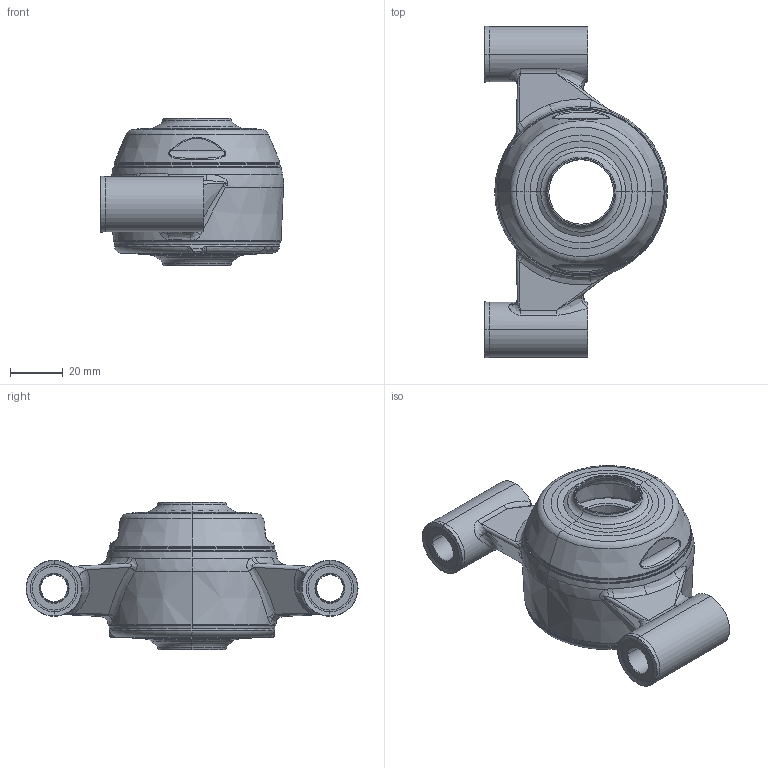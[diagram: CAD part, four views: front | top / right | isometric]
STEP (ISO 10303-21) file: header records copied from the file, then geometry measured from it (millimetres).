
FILE_DESCRIPTION (( 'STEP AP203' ), '1' );
FILE_NAME ('XBPBC52(Blue)-SSB2500(Front)-OM(Blue)-OS(Blue)_Shell.step', '2020-08-08T04:54:00', ( '' ), ( '' ), 'SwSTEP 2.0', 'SolidWorks 2019', '' );
FILE_SCHEMA (( 'CONFIG_CONTROL_DESIGN' ));
Length unit declared in the file: millimetre
Products named in the file (1): XBPBC52(Blue)-SSB2500(Front)-OM(Blue)-OS(Blue)_Shell
Bounding box: 69.69 x 126.4 x 56.34 mm (x, y, z)
Surface area: 37718.7 mm2 (no closed solid volume)
Topology: 0 solids, 23 shells, 292 faces, 844 edges, 561 vertices
Faces by surface type: bspline 88, cone 65, torus 56, cylinder 48, plane 25, sphere 10
Entity records: 16153 total; most frequent: CARTESIAN_POINT 9004, DIRECTION 1455, ORIENTED_EDGE 1434, EDGE_CURVE 844, AXIS2_PLACEMENT_3D 655, VERTEX_POINT 561, CIRCLE 450, EDGE_LOOP 313
